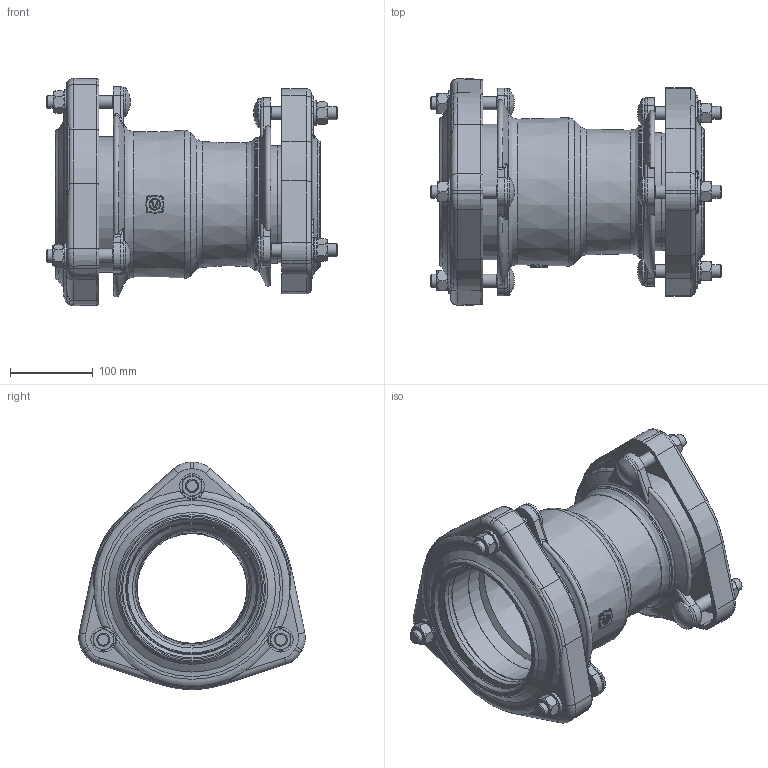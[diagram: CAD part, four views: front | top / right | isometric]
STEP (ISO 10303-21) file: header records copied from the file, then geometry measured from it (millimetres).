
FILE_DESCRIPTION((''),'2;1');
FILE_NAME('P:\Fastrack\54361_VIKING JOHNSON 3D\ULTRAGRIP\Component Parts\Components Built up\Stepped Coupling Assembly\100-125MM\100-125MM-UltraGrip-Stepped-Coupling-Assembly.stp','2012-06-27T16:24:42',('dcole'),(''),'Autodesk Inventor 2008','Autodesk Inventor 2008','');
FILE_SCHEMA(('AUTOMOTIVE_DESIGN { 1 0 10303 214 1 1 1 1 }'));
Length unit declared in the file: millimetre
Products named in the file (1): 100-125MM-UltraGrip-Stepped-Coupling-Assembly
Bounding box: 352.1 x 274.22 x 275.22 mm (x, y, z)
Volume: 2127748.7 mm3; surface area: 674071.1 mm2
Topology: 2 solids, 2 shells, 861 faces, 2180 edges, 1361 vertices
Faces by surface type: plane 277, cylinder 268, cone 123, bspline 102, torus 91
Full cylindrical faces by diameter (mm): 13 x1, 15.7 x12, 16 x6, 18.233 x3, 30 x6, 35.2 x6, 132.7 x1, 133.7 x1, 134.7 x1, 141.7 x1, 142.7 x1, 149.568 x1, 156 x1, 157 x1, 158 x1, 164 x1, 189.671 x1
Entity records: 36413 total; most frequent: CARTESIAN_POINT 16245, ORIENTED_EDGE 4024, DIRECTION 3979, EDGE_CURVE 2012, AXIS2_PLACEMENT_3D 1622, VERTEX_POINT 1304, EDGE_LOOP 1023, STYLED_ITEM 860
